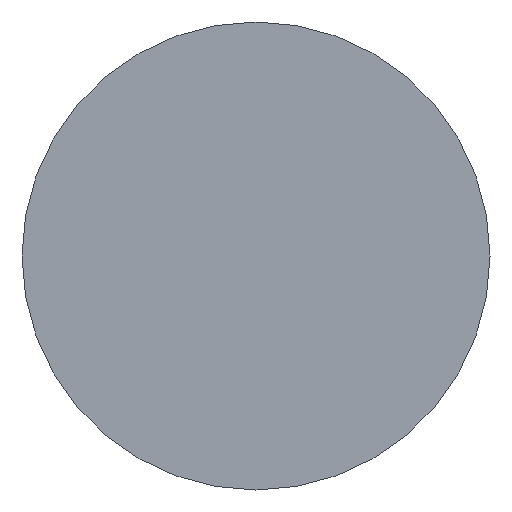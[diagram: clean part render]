
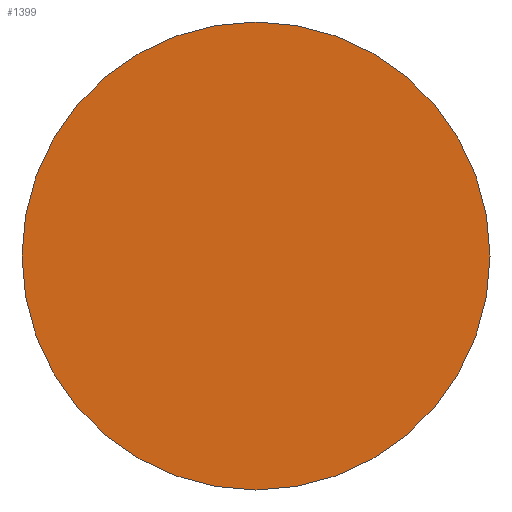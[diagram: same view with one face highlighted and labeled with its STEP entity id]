
A CAD part, front view. The second image highlights one B-rep face of the part: STEP entity #1399.
In plain terms, the highlighted planar face has unit normal (0, -1, 0).
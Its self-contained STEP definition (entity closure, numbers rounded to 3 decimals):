
#98 = ORIENTED_EDGE ( 'NONE', *, *, #2111, .T. ) ;
#100 = AXIS2_PLACEMENT_3D ( 'NONE', #827, #2671, #2649 ) ;
#274 = DIRECTION ( 'NONE',  ( 0., -1., 0. ) ) ;
#398 = DIRECTION ( 'NONE',  ( -1., 0., 0. ) ) ;
#400 = CIRCLE ( 'NONE', #878, 29.5 ) ;
#414 = ORIENTED_EDGE ( 'NONE', *, *, #2319, .T. ) ;
#523 = CARTESIAN_POINT ( 'NONE',  ( -29.5, -47.5, 29.5 ) ) ;
#649 = VERTEX_POINT ( 'NONE', #523 ) ;
#711 = CARTESIAN_POINT ( 'NONE',  ( 0., -47.5, 29.5 ) ) ;
#785 = DIRECTION ( 'NONE',  ( 0., -1., 0. ) ) ;
#806 = DIRECTION ( 'NONE',  ( -1., 0., 0. ) ) ;
#827 = CARTESIAN_POINT ( 'NONE',  ( 14.75, -47.5, 29.5 ) ) ;
#878 = AXIS2_PLACEMENT_3D ( 'NONE', #711, #274, #398 ) ;
#901 = CARTESIAN_POINT ( 'NONE',  ( 0., -47.5, 29.5 ) ) ;
#1189 = FACE_OUTER_BOUND ( 'NONE', #2390, .T. ) ;
#1307 = CIRCLE ( 'NONE', #2124, 29.5 ) ;
#1399 = ADVANCED_FACE ( 'NONE', ( #1189 ), #2732, .T. ) ;
#1851 = VERTEX_POINT ( 'NONE', #1866 ) ;
#1866 = CARTESIAN_POINT ( 'NONE',  ( 29.5, -47.5, 29.5 ) ) ;
#2111 = EDGE_CURVE ( 'NONE', #1851, #649, #1307, .T. ) ;
#2124 = AXIS2_PLACEMENT_3D ( 'NONE', #901, #785, #806 ) ;
#2319 = EDGE_CURVE ( 'NONE', #649, #1851, #400, .T. ) ;
#2390 = EDGE_LOOP ( 'NONE', ( #414, #98 ) ) ;
#2649 = DIRECTION ( 'NONE',  ( -1., 0., 0. ) ) ;
#2671 = DIRECTION ( 'NONE',  ( 0., -1., 0. ) ) ;
#2732 = PLANE ( 'NONE',  #100 ) ;
